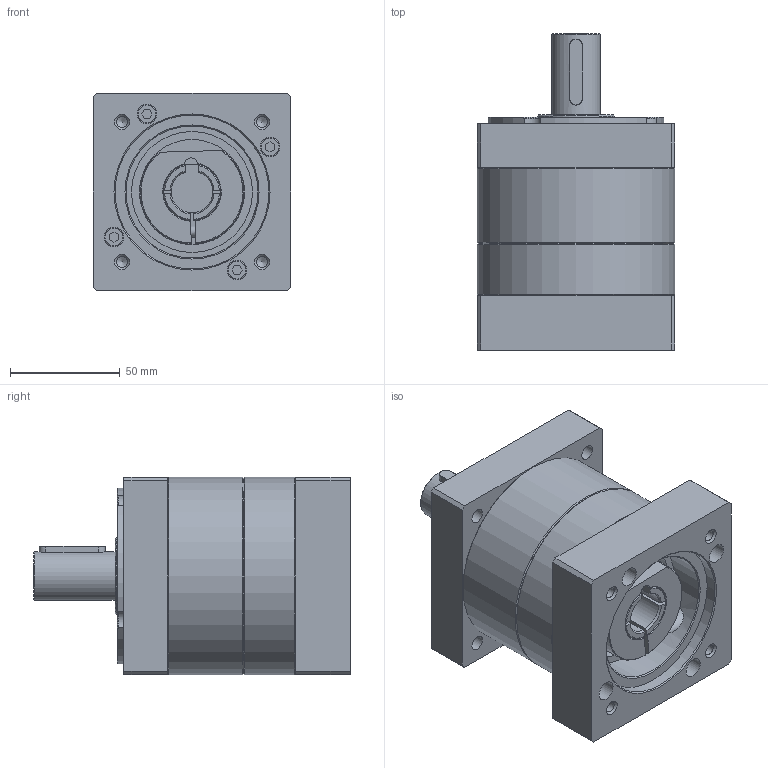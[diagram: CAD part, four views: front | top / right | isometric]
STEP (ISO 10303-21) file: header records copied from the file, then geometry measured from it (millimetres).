
FILE_DESCRIPTION((''),'2;1');
FILE_NAME('D:\T-DATA\Desktop\標準型-型錄用3D\PS90-1.stp','2016-10-17T15:18:57',('Administrator'),(''),'Autodesk Inventor 2013','Autodesk Inventor 2013','');
FILE_SCHEMA(('AUTOMOTIVE_DESIGN { 1 0 10303 214 1 1 1 1 }'));
Length unit declared in the file: millimetre
Products named in the file (1): PS90-1
Bounding box: 90 x 144 x 90 mm (x, y, z)
Volume: 673999.7 mm3; surface area: 94292.2 mm2
Topology: 5 solids, 5 shells, 292 faces, 668 edges, 435 vertices
Faces by surface type: plane 151, cylinder 82, cone 47, torus 12
Full cylindrical faces by diameter (mm): 4.2 x1, 4.917 x5, 5 x5, 5.2 x4, 5.5 x5, 6.8 x4, 8.4 x1, 8.5 x8, 9 x9, 10.086 x1, 10.106 x1, 22 x1, 34.5 x1, 35 x1, 47.8 x1, 55 x1, 60 x1, 62 x1, 70 x3, 90 x2
Entity records: 7908 total; most frequent: CARTESIAN_POINT 1532, DIRECTION 1348, ORIENTED_EDGE 1130, EDGE_CURVE 565, AXIS2_PLACEMENT_3D 529, EDGE_LOOP 446, VERTEX_POINT 421, FACE_OUTER_BOUND 292
